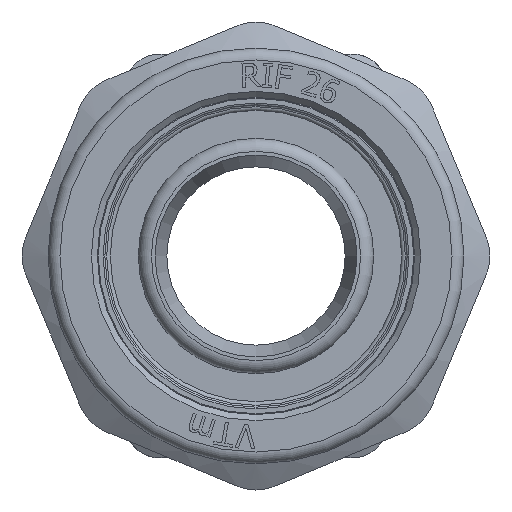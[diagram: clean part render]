
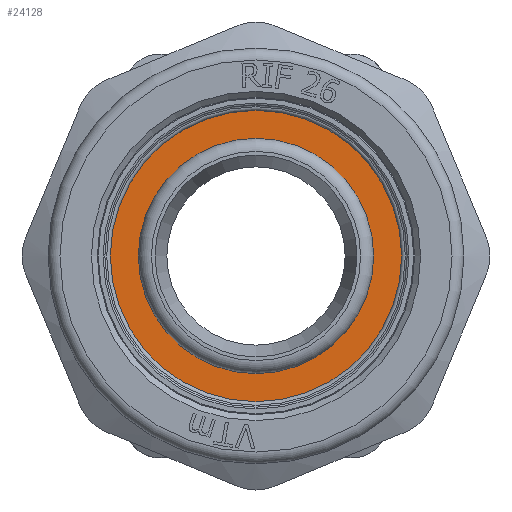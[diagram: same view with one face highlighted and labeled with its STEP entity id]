
A CAD part, left-side view. The second image highlights one B-rep face of the part: STEP entity #24128.
In plain terms, the highlighted planar face has unit normal (-1, 0, 0).
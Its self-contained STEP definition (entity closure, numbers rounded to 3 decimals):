
#252=FACE_BOUND('',#3937,.T.);
#578=PLANE('',#25018);
#2536=FACE_OUTER_BOUND('',#3936,.T.);
#3936=EDGE_LOOP('',(#21991,#21992));
#3937=EDGE_LOOP('',(#21993,#21994));
#4374=CIRCLE('',#25016,13.1);
#4375=CIRCLE('',#25017,13.1);
#4376=CIRCLE('',#25019,9.9);
#4377=CIRCLE('',#25020,9.9);
#11473=VERTEX_POINT('',#54361);
#11474=VERTEX_POINT('',#54363);
#11475=VERTEX_POINT('',#54367);
#11476=VERTEX_POINT('',#54368);
#15077=EDGE_CURVE('',#11474,#11473,#4374,.T.);
#15078=EDGE_CURVE('',#11473,#11474,#4375,.T.);
#15079=EDGE_CURVE('',#11475,#11476,#4376,.T.);
#15080=EDGE_CURVE('',#11476,#11475,#4377,.T.);
#21991=ORIENTED_EDGE('',*,*,#15077,.T.);
#21992=ORIENTED_EDGE('',*,*,#15078,.T.);
#21993=ORIENTED_EDGE('',*,*,#15079,.F.);
#21994=ORIENTED_EDGE('',*,*,#15080,.F.);
#24128=ADVANCED_FACE('',(#2536,#252),#578,.T.);
#25016=AXIS2_PLACEMENT_3D('',#54364,#28332,#28333);
#25017=AXIS2_PLACEMENT_3D('',#54365,#28334,#28335);
#25018=AXIS2_PLACEMENT_3D('',#54366,#28336,#28337);
#25019=AXIS2_PLACEMENT_3D('',#54369,#28338,#28339);
#25020=AXIS2_PLACEMENT_3D('',#54370,#28340,#28341);
#28332=DIRECTION('center_axis',(-1.,0.,0.));
#28333=DIRECTION('ref_axis',(0.,0.,1.));
#28334=DIRECTION('center_axis',(-1.,0.,0.));
#28335=DIRECTION('ref_axis',(0.,0.,1.));
#28336=DIRECTION('center_axis',(-1.,0.,0.));
#28337=DIRECTION('ref_axis',(0.,0.,1.));
#28338=DIRECTION('center_axis',(-1.,0.,0.));
#28339=DIRECTION('ref_axis',(0.,0.,1.));
#28340=DIRECTION('center_axis',(-1.,0.,0.));
#28341=DIRECTION('ref_axis',(0.,0.,1.));
#54361=CARTESIAN_POINT('',(-8.25,13.1,0.));
#54363=CARTESIAN_POINT('',(-8.25,-13.1,0.));
#54364=CARTESIAN_POINT('Origin',(-8.25,0.,
0.));
#54365=CARTESIAN_POINT('Origin',(-8.25,0.,
0.));
#54366=CARTESIAN_POINT('Origin',(-8.25,-9.9,0.));
#54367=CARTESIAN_POINT('',(-8.25,-9.9,0.));
#54368=CARTESIAN_POINT('',(-8.25,9.9,0.));
#54369=CARTESIAN_POINT('Origin',(-8.25,0.,
0.));
#54370=CARTESIAN_POINT('Origin',(-8.25,0.,
0.));
